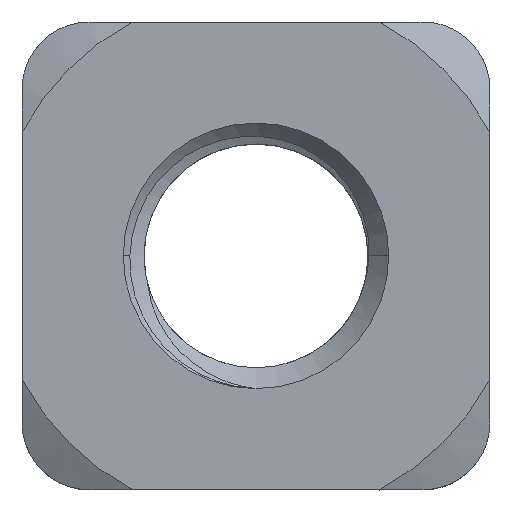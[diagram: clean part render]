
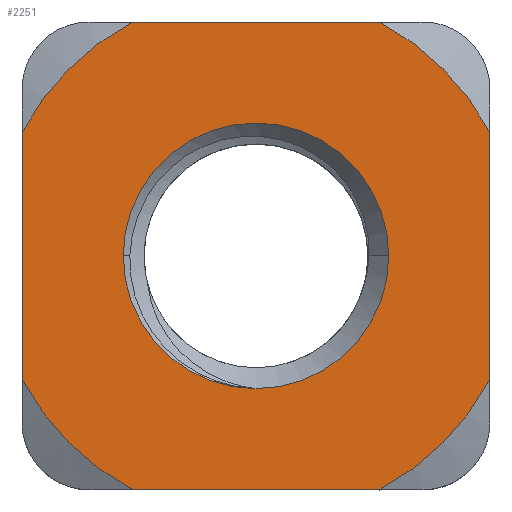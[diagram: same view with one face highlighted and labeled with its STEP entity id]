
A CAD part, top view. The second image highlights one B-rep face of the part: STEP entity #2251.
In plain terms, the highlighted planar face has unit normal (0, 0, 1).
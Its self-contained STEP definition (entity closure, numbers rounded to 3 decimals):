
#12 = AXIS2_PLACEMENT_3D ( 'NONE', #2256, #2013, #1766 ) ;
#45 = DIRECTION ( 'NONE',  ( 0., 0., 1. ) ) ;
#55 = CIRCLE ( 'NONE', #768, 7.918 ) ;
#78 = ORIENTED_EDGE ( 'NONE', *, *, #1763, .T. ) ;
#93 = CARTESIAN_POINT ( 'NONE',  ( 0., 0., 3. ) ) ;
#121 = EDGE_LOOP ( 'NONE', ( #1399, #784, #1603, #1843, #370, #1311, #2059, #729 ) ) ;
#134 = VERTEX_POINT ( 'NONE', #1115 ) ;
#142 = LINE ( 'NONE', #2253, #2252 ) ;
#149 = DIRECTION ( 'NONE',  ( -1., 0., 0. ) ) ;
#162 = EDGE_CURVE ( 'NONE', #404, #1727, #142, .T. ) ;
#176 = DIRECTION ( 'NONE',  ( 0., 0., -1. ) ) ;
#202 = EDGE_LOOP ( 'NONE', ( #78, #2230, #433 ) ) ;
#277 = EDGE_CURVE ( 'NONE', #1597, #2036, #1586, .T. ) ;
#288 = CARTESIAN_POINT ( 'NONE',  ( 7., -7., 3. ) ) ;
#296 = EDGE_CURVE ( 'NONE', #404, #2036, #1008, .T. ) ;
#345 = DIRECTION ( 'NONE',  ( 1., 0., 0. ) ) ;
#356 = DIRECTION ( 'NONE',  ( 0., 1., 0. ) ) ;
#370 = ORIENTED_EDGE ( 'NONE', *, *, #162, .T. ) ;
#382 = CARTESIAN_POINT ( 'NONE',  ( 7., -3.701, 3. ) ) ;
#385 = DIRECTION ( 'NONE',  ( 0., 0., -1. ) ) ;
#398 = AXIS2_PLACEMENT_3D ( 'NONE', #2100, #176, #2284 ) ;
#404 = VERTEX_POINT ( 'NONE', #1133 ) ;
#411 = CIRCLE ( 'NONE', #1744, 3.975 ) ;
#413 = CIRCLE ( 'NONE', #12, 7.918 ) ;
#433 = ORIENTED_EDGE ( 'NONE', *, *, #1693, .T. ) ;
#461 = EDGE_CURVE ( 'NONE', #1089, #1670, #834, .T. ) ;
#520 = CARTESIAN_POINT ( 'NONE',  ( -7., -3.7, 3. ) ) ;
#528 = PLANE ( 'NONE',  #1945 ) ;
#543 = CARTESIAN_POINT ( 'NONE',  ( -3.7, 7., 3. ) ) ;
#546 = DIRECTION ( 'NONE',  ( 1., 0., 0. ) ) ;
#557 = CIRCLE ( 'NONE', #1868, 7.918 ) ;
#585 = CARTESIAN_POINT ( 'NONE',  ( -7., -7., 3. ) ) ;
#596 = CARTESIAN_POINT ( 'NONE',  ( 7., -7., 3. ) ) ;
#628 = VECTOR ( 'NONE', #1121, 1000. ) ;
#657 = CARTESIAN_POINT ( 'NONE',  ( 3.7, -7., 3. ) ) ;
#728 = DIRECTION ( 'NONE',  ( 1., 0., 0. ) ) ;
#729 = ORIENTED_EDGE ( 'NONE', *, *, #760, .T. ) ;
#732 = VERTEX_POINT ( 'NONE', #382 ) ;
#760 = EDGE_CURVE ( 'NONE', #1670, #732, #413, .T. ) ;
#761 = CARTESIAN_POINT ( 'NONE',  ( 7., 3.7, 3. ) ) ;
#766 = CIRCLE ( 'NONE', #398, 3.975 ) ;
#768 = AXIS2_PLACEMENT_3D ( 'NONE', #1034, #789, #546 ) ;
#784 = ORIENTED_EDGE ( 'NONE', *, *, #1261, .T. ) ;
#789 = DIRECTION ( 'NONE',  ( 0., 0., 1. ) ) ;
#834 = LINE ( 'NONE', #585, #2281 ) ;
#844 = LINE ( 'NONE', #596, #865 ) ;
#865 = VECTOR ( 'NONE', #356, 1000. ) ;
#875 = CARTESIAN_POINT ( 'NONE',  ( 0., 0., 3. ) ) ;
#902 = CARTESIAN_POINT ( 'NONE',  ( 3.975, 0., 3. ) ) ;
#974 = DIRECTION ( 'NONE',  ( 0., 0., 1. ) ) ;
#1008 = CIRCLE ( 'NONE', #2023, 7.918 ) ;
#1034 = CARTESIAN_POINT ( 'NONE',  ( 0., 0., 3. ) ) ;
#1076 = FACE_BOUND ( 'NONE', #202, .T. ) ;
#1089 = VERTEX_POINT ( 'NONE', #1997 ) ;
#1115 = CARTESIAN_POINT ( 'NONE',  ( -3.975, 0., 3. ) ) ;
#1121 = DIRECTION ( 'NONE',  ( -1., 0., 0. ) ) ;
#1133 = CARTESIAN_POINT ( 'NONE',  ( -7., 3.701, 3. ) ) ;
#1134 = DIRECTION ( 'NONE',  ( 1., 0., 0. ) ) ;
#1214 = CARTESIAN_POINT ( 'NONE',  ( 0., 0., 3. ) ) ;
#1261 = EDGE_CURVE ( 'NONE', #1723, #1597, #55, .T. ) ;
#1310 = CARTESIAN_POINT ( 'NONE',  ( 0., -3.975, 3. ) ) ;
#1311 = ORIENTED_EDGE ( 'NONE', *, *, #2081, .T. ) ;
#1355 = CARTESIAN_POINT ( 'NONE',  ( 7., 7., 3. ) ) ;
#1370 = DIRECTION ( 'NONE',  ( 0., 0., -1. ) ) ;
#1399 = ORIENTED_EDGE ( 'NONE', *, *, #1977, .T. ) ;
#1430 = AXIS2_PLACEMENT_3D ( 'NONE', #1841, #1370, #1134 ) ;
#1487 = CIRCLE ( 'NONE', #1430, 3.975 ) ;
#1492 = CARTESIAN_POINT ( 'NONE',  ( 3.701, 7., 3. ) ) ;
#1525 = EDGE_CURVE ( 'NONE', #134, #1666, #411, .T. ) ;
#1583 = VERTEX_POINT ( 'NONE', #1310 ) ;
#1586 = LINE ( 'NONE', #1355, #628 ) ;
#1597 = VERTEX_POINT ( 'NONE', #1492 ) ;
#1603 = ORIENTED_EDGE ( 'NONE', *, *, #277, .T. ) ;
#1666 = VERTEX_POINT ( 'NONE', #902 ) ;
#1670 = VERTEX_POINT ( 'NONE', #657 ) ;
#1693 = EDGE_CURVE ( 'NONE', #1666, #1583, #766, .T. ) ;
#1723 = VERTEX_POINT ( 'NONE', #761 ) ;
#1727 = VERTEX_POINT ( 'NONE', #520 ) ;
#1744 = AXIS2_PLACEMENT_3D ( 'NONE', #93, #2200, #1956 ) ;
#1763 = EDGE_CURVE ( 'NONE', #1583, #134, #1487, .T. ) ;
#1766 = DIRECTION ( 'NONE',  ( 1., 0., 0. ) ) ;
#1841 = CARTESIAN_POINT ( 'NONE',  ( 0., 0., 3. ) ) ;
#1843 = ORIENTED_EDGE ( 'NONE', *, *, #296, .F. ) ;
#1868 = AXIS2_PLACEMENT_3D ( 'NONE', #1214, #974, #728 ) ;
#1945 = AXIS2_PLACEMENT_3D ( 'NONE', #288, #45, #2151 ) ;
#1956 = DIRECTION ( 'NONE',  ( 1., 0., 0. ) ) ;
#1977 = EDGE_CURVE ( 'NONE', #732, #1723, #844, .T. ) ;
#1997 = CARTESIAN_POINT ( 'NONE',  ( -3.701, -7., 3. ) ) ;
#2009 = DIRECTION ( 'NONE',  ( 0., -1., 0. ) ) ;
#2013 = DIRECTION ( 'NONE',  ( 0., 0., 1. ) ) ;
#2023 = AXIS2_PLACEMENT_3D ( 'NONE', #875, #385, #149 ) ;
#2036 = VERTEX_POINT ( 'NONE', #543 ) ;
#2059 = ORIENTED_EDGE ( 'NONE', *, *, #461, .T. ) ;
#2081 = EDGE_CURVE ( 'NONE', #1727, #1089, #557, .T. ) ;
#2100 = CARTESIAN_POINT ( 'NONE',  ( 0., 0., 3. ) ) ;
#2151 = DIRECTION ( 'NONE',  ( 1., 0., 0. ) ) ;
#2163 = FACE_OUTER_BOUND ( 'NONE', #121, .T. ) ;
#2200 = DIRECTION ( 'NONE',  ( 0., 0., -1. ) ) ;
#2230 = ORIENTED_EDGE ( 'NONE', *, *, #1525, .T. ) ;
#2251 = ADVANCED_FACE ( 'NONE', ( #1076, #2163 ), #528, .T. ) ;
#2252 = VECTOR ( 'NONE', #2009, 1000. ) ;
#2253 = CARTESIAN_POINT ( 'NONE',  ( -7., 7., 3. ) ) ;
#2256 = CARTESIAN_POINT ( 'NONE',  ( 0., 0., 3. ) ) ;
#2281 = VECTOR ( 'NONE', #345, 1000. ) ;
#2284 = DIRECTION ( 'NONE',  ( 1., 0., 0. ) ) ;
